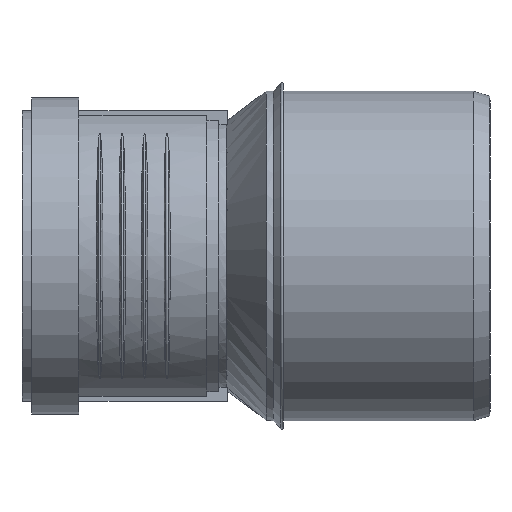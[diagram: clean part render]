
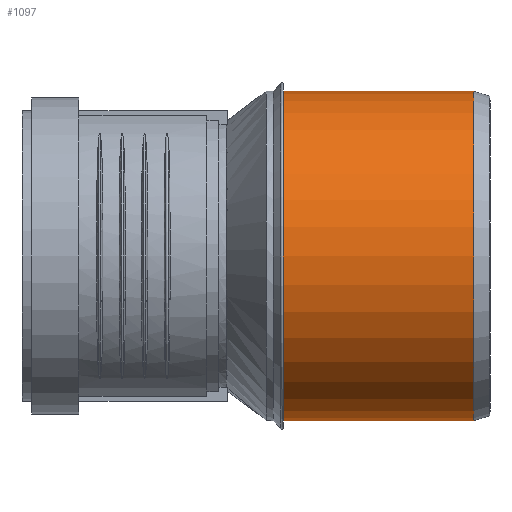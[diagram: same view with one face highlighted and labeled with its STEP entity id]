
A CAD part, left-side view. The second image highlights one B-rep face of the part: STEP entity #1097.
In plain terms, the highlighted cylindrical face has radius 55.1 mm (diameter 110.2 mm), a full revolution.
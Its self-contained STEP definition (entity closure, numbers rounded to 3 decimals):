
#124=CYLINDRICAL_SURFACE($,#1182,55.1);
#148=FACE_BOUND($,#277,.T.);
#208=FACE_OUTER_BOUND($,#276,.T.);
#276=EDGE_LOOP($,(#755));
#277=EDGE_LOOP($,(#756));
#427=CIRCLE($,#1181,55.1);
#428=CIRCLE($,#1183,55.1);
#486=VERTEX_POINT($,#1660);
#487=VERTEX_POINT($,#1663);
#599=EDGE_CURVE($,#486,#486,#427,.T.);
#600=EDGE_CURVE($,#487,#487,#428,.T.);
#755=ORIENTED_EDGE($,*,*,#600,.F.);
#756=ORIENTED_EDGE($,*,*,#599,.T.);
#1097=ADVANCED_FACE($,(#208,#148),#124,.T.);
#1181=AXIS2_PLACEMENT_3D($,#1661,#1331,#1332);
#1182=AXIS2_PLACEMENT_3D($,#1662,#1333,#1334);
#1183=AXIS2_PLACEMENT_3D($,#1664,#1335,#1336);
#1331=DIRECTION('center_axis',(0.,-1.,0.));
#1332=DIRECTION('ref_axis',(1.,0.,0.));
#1333=DIRECTION('center_axis',(0.,-1.,0.));
#1334=DIRECTION('ref_axis',(1.,0.,0.));
#1335=DIRECTION('center_axis',(0.,-1.,0.));
#1336=DIRECTION('ref_axis',(1.,0.,0.));
#1660=CARTESIAN_POINT('',(55.1,69.1,0.));
#1661=CARTESIAN_POINT('Origin',(0.,69.1,0.));
#1662=CARTESIAN_POINT('Origin',(0.,37.3,0.));
#1663=CARTESIAN_POINT('',(55.1,5.5,0.));
#1664=CARTESIAN_POINT('Origin',(0.,5.5,0.));
